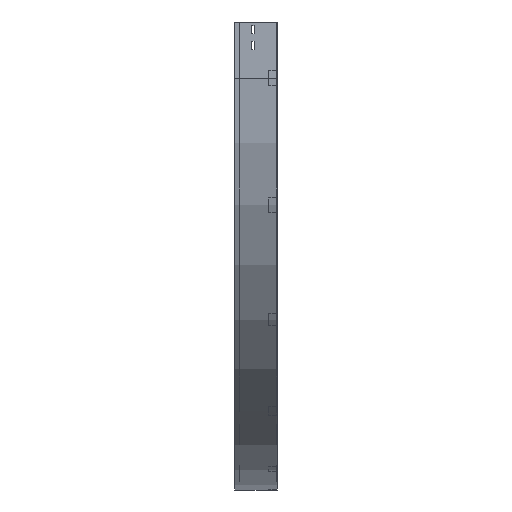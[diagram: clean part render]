
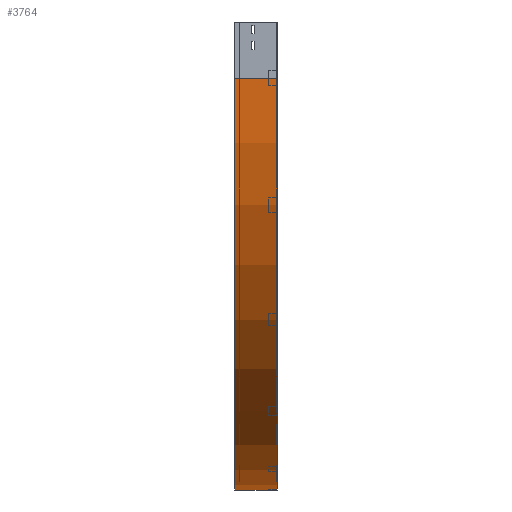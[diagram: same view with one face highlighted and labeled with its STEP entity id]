
A CAD part, left-side view. The second image highlights one B-rep face of the part: STEP entity #3764.
In plain terms, the highlighted cylindrical face has radius 1100 mm (diameter 2200 mm), a partial arc.
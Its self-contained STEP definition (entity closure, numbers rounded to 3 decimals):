
#93 = ORIENTED_EDGE ( 'NONE', *, *, #750, .F. ) ;
#105 = CARTESIAN_POINT ( 'NONE',  ( 0., 112.5, -150. ) ) ;
#116 = LINE ( 'NONE', #688, #2609 ) ;
#171 = VERTEX_POINT ( 'NONE', #105 ) ;
#273 = CARTESIAN_POINT ( 'NONE',  ( 1100., 0., -1250. ) ) ;
#370 = VERTEX_POINT ( 'NONE', #2696 ) ;
#527 = DIRECTION ( 'NONE',  ( -1., 0., 0. ) ) ;
#688 = CARTESIAN_POINT ( 'NONE',  ( 0., 0., -150. ) ) ;
#750 = EDGE_CURVE ( 'NONE', #370, #1637, #1360, .T. ) ;
#760 = VERTEX_POINT ( 'NONE', #2959 ) ;
#765 = CARTESIAN_POINT ( 'NONE',  ( 1100., 0., -150. ) ) ;
#859 = CARTESIAN_POINT ( 'NONE',  ( 1100., 0., -1250. ) ) ;
#996 = CARTESIAN_POINT ( 'NONE',  ( 1100., 0., -150. ) ) ;
#1027 = AXIS2_PLACEMENT_3D ( 'NONE', #996, #2204, #2832 ) ;
#1039 = DIRECTION ( 'NONE',  ( 0., -1., 0. ) ) ;
#1348 = DIRECTION ( 'NONE',  ( -1., 0., 0. ) ) ;
#1360 = CIRCLE ( 'NONE', #3556, 1100. ) ;
#1412 = ORIENTED_EDGE ( 'NONE', *, *, #1893, .T. ) ;
#1503 = LINE ( 'NONE', #859, #3474 ) ;
#1562 = DIRECTION ( 'NONE',  ( 0., -1., 0. ) ) ;
#1637 = VERTEX_POINT ( 'NONE', #273 ) ;
#1893 = EDGE_CURVE ( 'NONE', #171, #760, #2414, .T. ) ;
#1952 = DIRECTION ( 'NONE',  ( 0., -1., 0. ) ) ;
#1967 = AXIS2_PLACEMENT_3D ( 'NONE', #3806, #1039, #1348 ) ;
#2204 = DIRECTION ( 'NONE',  ( 0., -1., 0. ) ) ;
#2240 = ORIENTED_EDGE ( 'NONE', *, *, #2689, .T. ) ;
#2249 = FACE_OUTER_BOUND ( 'NONE', #2266, .T. ) ;
#2266 = EDGE_LOOP ( 'NONE', ( #93, #2835, #1412, #2240 ) ) ;
#2345 = DIRECTION ( 'NONE',  ( 0., -1., 0. ) ) ;
#2414 = CIRCLE ( 'NONE', #1967, 1100. ) ;
#2609 = VECTOR ( 'NONE', #1562, 1000. ) ;
#2689 = EDGE_CURVE ( 'NONE', #760, #1637, #1503, .T. ) ;
#2696 = CARTESIAN_POINT ( 'NONE',  ( 0., 0., -150. ) ) ;
#2832 = DIRECTION ( 'NONE',  ( 0., 0., -1. ) ) ;
#2835 = ORIENTED_EDGE ( 'NONE', *, *, #2940, .F. ) ;
#2940 = EDGE_CURVE ( 'NONE', #171, #370, #116, .T. ) ;
#2959 = CARTESIAN_POINT ( 'NONE',  ( 1100., 112.5, -1250. ) ) ;
#3474 = VECTOR ( 'NONE', #2345, 1000. ) ;
#3556 = AXIS2_PLACEMENT_3D ( 'NONE', #765, #1952, #527 ) ;
#3764 = ADVANCED_FACE ( 'NONE', ( #2249 ), #3766, .T. ) ;
#3766 = CYLINDRICAL_SURFACE ( 'NONE', #1027, 1100. ) ;
#3806 = CARTESIAN_POINT ( 'NONE',  ( 1100., 112.5, -150. ) ) ;
